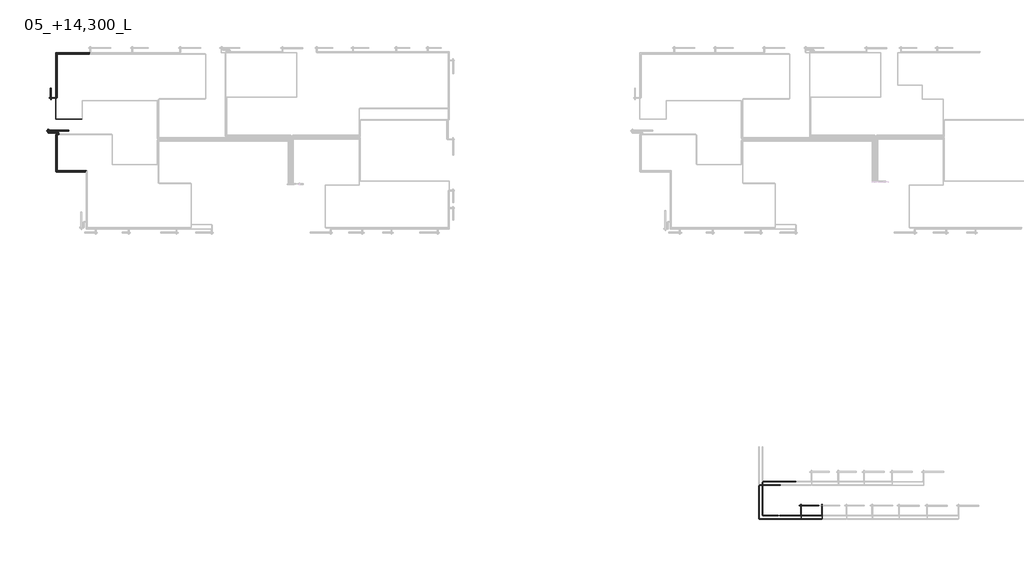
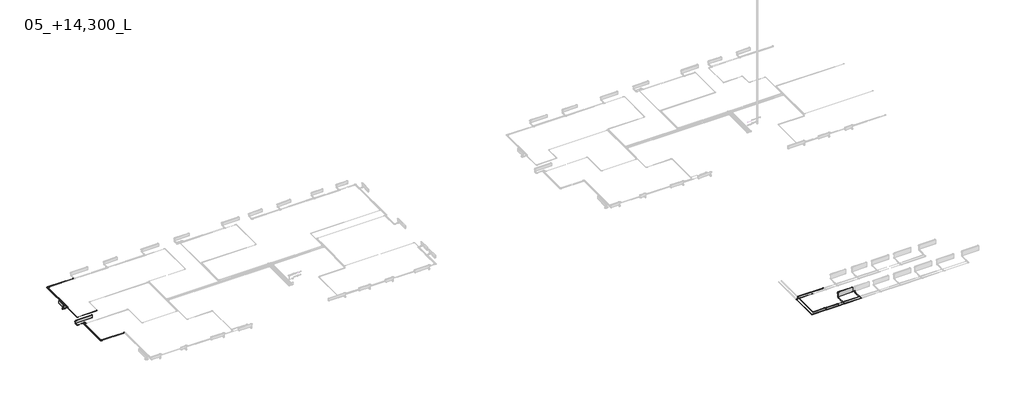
# One storey, part 1 of 15: 34 pipe segments, 29 pipe fittings, 3 proxies, 3 valves.
"""IFC4 building model written with IfcOpenShell, lengths in millimetres."""

from ifc_helpers import new_model, si_unit, point, frame, frame_2d, origin, place, context, project, spatial, circle_curve, trimmed, segment, composite_curve, outline, extrude, transform, mapped, element, save
from components import mechanical_equipment_91f7fb6e, mechanical_equipment_6df30eec, mechanical_equipment_88dabea2, pipe_fitting_ed936812, pipe_fitting_44bd76dc, pipe_fitting_342b0143, pipe_fitting_8f811e63, pipe_fitting_10138c0c, pipe_fitting_d927fdfb, pipe_fitting_8d19ce67, pipe_fitting_d4206441, valve_d3faaedd, valve_8453c3c0, valve_18af1cec

model = new_model("IFC4")

# Units and contexts
model_context = context("Model", 3, world=origin())
ifc_project = project(units=[si_unit("LENGTHUNIT", "METRE", prefix="MILLI")], contexts=[model_context])

# Site, building, storey
site = spatial("IfcSite", under=ifc_project)
building = spatial("IfcBuilding", under=site)
storey = spatial("IfcBuildingStorey", under=building, Name="05_+14,300_L", Elevation=14300.0)

# Proxies
placement = place(None, origin())
mechanical_equipment_shape = mechanical_equipment_91f7fb6e(model_context)
element("IfcBuildingElementProxy", 1, Name="EVRA CV Д : 21-300-900", ObjectType="EVRA CV Д : 21-300-900", at=placement, inside=storey, context=model_context, shape_type="MappedRepresentation", body=[
    mapped(mechanical_equipment_shape, transform((-2538.5368898, 124330.0000002, 14300.0), x_axis=(0.0, 1.0, 0.0), y_axis=(-1.0, 0.0, 0.0), z_axis=(0.0, 0.0, 1.0))),
])
mechanical_equipment_2_shape = mechanical_equipment_6df30eec(model_context)
element("IfcBuildingElementProxy", 2, Name="EVRA CV Д : 21-300-1800", ObjectType="EVRA CV Д : 21-300-1800", at=placement, inside=storey, context=model_context, shape_type="MappedRepresentation", body=[
    mapped(mechanical_equipment_2_shape, transform((-2097.451836, 121338.53689, 14300.0), x_axis=(1.0, 0.0, 0.0), y_axis=(0.0, 1.0, 0.0), z_axis=(0.0, 0.0, 1.0))),
])
mechanical_equipment_3_shape = mechanical_equipment_88dabea2(model_context)
element("IfcBuildingElementProxy", 3, Name="EVRA CV Д : 11-500-1600", ObjectType="EVRA CV Д : 11-500-1600", at=placement, inside=storey, context=model_context, shape_type="MappedRepresentation", body=[
    mapped(mechanical_equipment_3_shape, transform((62235.0, 89214.7933297, 14300.0), x_axis=(1.0, 0.0, 0.0), y_axis=(0.0, 1.0, 0.0), z_axis=(0.0, 0.0, 1.0))),
])

# Pipe fittings
pipe_fitting_shape = pipe_fitting_ed936812(model_context)
element("IfcPipeFitting", 4, ObjectType="ADSK_Пресс-фитинг ПЭ_Поворот с фиксатором : Поворот трубы", at=placement, inside=storey, context=model_context, shape_type="MappedRepresentation", body=[
    mapped(pipe_fitting_shape, transform((-2000.0, 124110.0000002, 14250.0), x_axis=(1.0, 0.0, 0.0), y_axis=(0.0, 1.0, 0.0), z_axis=(0.0, 0.0, 1.0))),
])
pipe_fitting_2_shape = pipe_fitting_44bd76dc(model_context)
element("IfcPipeFitting", 5, ObjectType="ADSK_Пресс-фитинг ПЭ_Тройник : Пластик черный", at=placement, inside=storey, context=model_context, shape_type="MappedRepresentation", body=[
    mapped(pipe_fitting_2_shape, transform((-1850.0, 121000.0000002, 14250.0), x_axis=(1.0, 0.0, 0.0), y_axis=(0.0, -1.0, 0.0), z_axis=(0.0, 0.0, -1.0))),
])
element("IfcPipeFitting", 6, ObjectType="ADSK_Пресс-фитинг ПЭ_Тройник : Пластик черный", at=placement, inside=storey, context=model_context, shape_type="MappedRepresentation", body=[
    mapped(pipe_fitting_2_shape, transform((-2100.0, 124160.0000002, 14250.0), x_axis=(0.0, 1.0, 0.0), y_axis=(1.0, 0.0, 0.0), z_axis=(0.0, 0.0, -1.0))),
])
pipe_fitting_3_shape = pipe_fitting_342b0143(model_context)
element("IfcPipeFitting", 7, ObjectType="ADSK_ЧугунРезьба_Угольник_ГОСТ8946-75 : Неоцинкованные", at=placement, inside=storey, context=model_context, shape_type="MappedRepresentation", body=[
    mapped(pipe_fitting_3_shape, transform((58115.0, 88049.2564399, 14250.0), x_axis=(0.0, -1.0, 0.0), y_axis=(1.0, 0.0, 0.0), z_axis=(0.0, 0.0, 1.0))),
])
element("IfcPipeFitting", 8, ObjectType="ADSK_ЧугунРезьба_Угольник_ГОСТ8946-75 : Неоцинкованные", at=placement, inside=storey, context=model_context, shape_type="MappedRepresentation", body=[
    mapped(pipe_fitting_3_shape, transform((58415.0, 88349.2564399, 14250.0), x_axis=(0.0, -1.0, 0.0), y_axis=(1.0, 0.0, 0.0), z_axis=(0.0, 0.0, 1.0))),
])
pipe_fitting_4_shape = pipe_fitting_8f811e63(model_context)
element("IfcPipeFitting", 9, ObjectType="ADSK_Пресс-фитинг ПЭ_Поворот с фиксатором : Поворот трубы", at=placement, inside=storey, context=model_context, shape_type="MappedRepresentation", body=[
    mapped(pipe_fitting_4_shape, transform((-2100.0, 128000.0, 14250.0), x_axis=(-1.0, 0.0, 0.0), y_axis=(0.0, -1.0, 0.0), z_axis=(0.0, 0.0, 1.0))),
])
element("IfcPipeFitting", 10, ObjectType="ADSK_Пресс-фитинг ПЭ_Поворот с фиксатором : Поворот трубы", at=placement, inside=storey, context=model_context, shape_type="MappedRepresentation", body=[
    mapped(pipe_fitting_4_shape, transform((-2000.0, 127900.0, 14250.0), x_axis=(-1.0, 0.0, 0.0), y_axis=(0.0, -1.0, 0.0), z_axis=(0.0, 0.0, 1.0))),
])
element("IfcPipeFitting", 11, ObjectType="ADSK_Пресс-фитинг ПЭ_Поворот с фиксатором : Поворот трубы", at=placement, inside=storey, context=model_context, shape_type="MappedRepresentation", body=[
    mapped(pipe_fitting_4_shape, transform((-2100.0, 122300.0, 14250.0), x_axis=(0.0, -1.0, 0.0), y_axis=(1.0, 0.0, 0.0), z_axis=(0.0, 0.0, 1.0))),
])
element("IfcPipeFitting", 12, ObjectType="ADSK_Пресс-фитинг ПЭ_Поворот с фиксатором : Поворот трубы", at=placement, inside=storey, context=model_context, shape_type="MappedRepresentation", body=[
    mapped(pipe_fitting_4_shape, transform((-2100.0, 121000.0000002, 14250.0), x_axis=(-1.0, 0.0, 0.0), y_axis=(0.0, -1.0, 0.0), z_axis=(0.0, 0.0, 1.0))),
])
element("IfcPipeFitting", 13, ObjectType="ADSK_Пресс-фитинг ПЭ_Поворот с фиксатором : Поворот трубы", at=placement, inside=storey, context=model_context, shape_type="MappedRepresentation", body=[
    mapped(pipe_fitting_4_shape, transform((-2717.451836, 121173.0000002, 14250.0), x_axis=(0.0, -1.0, 0.0), y_axis=(1.0, 0.0, 0.0), z_axis=(0.0, 0.0, 1.0))),
])
element("IfcPipeFitting", 14, ObjectType="ADSK_Пресс-фитинг ПЭ_Поворот с фиксатором : Поворот трубы", at=placement, inside=storey, context=model_context, shape_type="MappedRepresentation", body=[
    mapped(pipe_fitting_4_shape, transform((-1850.0, 121173.0000002, 14250.0), x_axis=(0.0, 1.0, 0.0), y_axis=(-1.0, 0.0, 0.0), z_axis=(0.0, 0.0, 1.0))),
])
element("IfcPipeFitting", 15, ObjectType="ADSK_Пресс-фитинг ПЭ_Поворот с фиксатором : Поворот трубы", at=placement, inside=storey, context=model_context, shape_type="MappedRepresentation", body=[
    mapped(pipe_fitting_4_shape, transform((-2767.451836, 121123.0000002, 14250.0), x_axis=(0.0, -1.0, 0.0), y_axis=(1.0, 0.0, 0.0), z_axis=(0.0, 0.0, 1.0))),
])
element("IfcPipeFitting", 16, ObjectType="ADSK_Пресс-фитинг ПЭ_Поворот с фиксатором : Поворот трубы", at=placement, inside=storey, context=model_context, shape_type="MappedRepresentation", body=[
    mapped(pipe_fitting_4_shape, transform((-2000.0, 121123.0000002, 14250.0), x_axis=(0.0, 1.0, 0.0), y_axis=(-1.0, 0.0, 0.0), z_axis=(0.0, 0.0, 1.0))),
])
element("IfcPipeFitting", 17, ObjectType="ADSK_Пресс-фитинг ПЭ_Поворот с фиксатором : Поворот трубы", at=placement, inside=storey, context=model_context, shape_type="MappedRepresentation", body=[
    mapped(pipe_fitting_4_shape, transform((-2100.0, 117800.0000002, 14250.0), x_axis=(0.0, -1.0, 0.0), y_axis=(1.0, 0.0, 0.0), z_axis=(0.0, 0.0, 1.0))),
])
element("IfcPipeFitting", 18, ObjectType="ADSK_Пресс-фитинг ПЭ_Поворот с фиксатором : Поворот трубы", at=placement, inside=storey, context=model_context, shape_type="MappedRepresentation", body=[
    mapped(pipe_fitting_4_shape, transform((-2000.0, 117900.0000002, 14250.0), x_axis=(0.0, -1.0, 0.0), y_axis=(1.0, 0.0, 0.0), z_axis=(0.0, 0.0, 1.0))),
])
pipe_fitting_5_shape = pipe_fitting_10138c0c(model_context)
element("IfcPipeFitting", 19, ObjectType="ADSK_ЧугунРезьба_МуфтаПереходная_ГОСТ8957-75 : Неоцинкованные", at=placement, inside=storey, context=model_context, shape_type="MappedRepresentation", body=[
    mapped(pipe_fitting_5_shape, transform((58415.0, 91213.2564399, 14250.0), x_axis=(0.0, -1.0, 0.0), y_axis=(1.0, 0.0, 0.0), z_axis=(0.0, 0.0, 1.0))),
])
element("IfcPipeFitting", 20, ObjectType="ADSK_ЧугунРезьба_МуфтаПереходная_ГОСТ8957-75 : Неоцинкованные", at=placement, inside=storey, context=model_context, shape_type="MappedRepresentation", body=[
    mapped(pipe_fitting_5_shape, transform((58115.0, 90913.2564399, 14250.0), x_axis=(0.0, -1.0, 0.0), y_axis=(1.0, 0.0, 0.0), z_axis=(0.0, 0.0, 1.0))),
])
pipe_fitting_6_shape = pipe_fitting_d927fdfb(model_context)
element("IfcPipeFitting", 21, ObjectType="Трубка Г-образная VTm.481.PC из стены : VTm.481.PC", at=placement, inside=storey, context=model_context, shape_type="MappedRepresentation", body=[
    mapped(pipe_fitting_6_shape, transform((-2767.451836, 121388.0000002, 14250.0), x_axis=(1.0, 0.0, 0.0), y_axis=(0.0, 1.0, 0.0), z_axis=(0.0, 0.0, 1.0))),
])
element("IfcPipeFitting", 22, ObjectType="Трубка Г-образная VTm.481.PC из стены : VTm.481.PC", at=placement, inside=storey, context=model_context, shape_type="MappedRepresentation", body=[
    mapped(pipe_fitting_6_shape, transform((-2588.0, 124110.0000002, 14250.0), x_axis=(0.0, 1.0, 0.0), y_axis=(-1.0, 0.0, 0.0), z_axis=(0.0, 0.0, 1.0))),
])
element("IfcPipeFitting", 23, ObjectType="Трубка Г-образная VTm.481.PC из стены : VTm.481.PC", at=placement, inside=storey, context=model_context, shape_type="MappedRepresentation", body=[
    mapped(pipe_fitting_6_shape, transform((-2717.451836, 121388.0000002, 14250.0), x_axis=(1.0, 0.0, 0.0), y_axis=(0.0, 1.0, 0.0), z_axis=(0.0, 0.0, 1.0))),
])
element("IfcPipeFitting", 24, ObjectType="Трубка Г-образная VTm.481.PC из стены : VTm.481.PC", at=placement, inside=storey, context=model_context, shape_type="MappedRepresentation", body=[
    mapped(pipe_fitting_6_shape, transform((-2588.0, 124160.0000002, 14250.0), x_axis=(0.0, 1.0, 0.0), y_axis=(-1.0, 0.0, 0.0), z_axis=(0.0, 0.0, 1.0))),
])
element("IfcPipeFitting", 25, ObjectType="Трубка Г-образная VTm.481.PC из стены : VTm.481.PC", at=placement, inside=storey, context=model_context, shape_type="MappedRepresentation", body=[
    mapped(pipe_fitting_6_shape, transform((63465.0, 89264.2564399, 14250.0), x_axis=(1.0, 0.0, 0.0), y_axis=(0.0, 1.0, 0.0), z_axis=(0.0, 0.0, 1.0))),
])
element("IfcPipeFitting", 26, ObjectType="Трубка Г-образная VTm.481.PC из стены : VTm.481.PC", at=placement, inside=storey, context=model_context, shape_type="MappedRepresentation", body=[
    mapped(pipe_fitting_6_shape, transform((63515.0, 89264.2564399, 14250.0), x_axis=(1.0, 0.0, 0.0), y_axis=(0.0, 1.0, 0.0), z_axis=(0.0, 0.0, 1.0))),
])
element("IfcPipeFitting", 27, ObjectType="Трубка Г-образная VTm.481.PC из стены : VTm.481.PC", at=placement, inside=storey, context=model_context, shape_type="MappedRepresentation", body=[
    mapped(pipe_fitting_6_shape, transform((61665.0, 89264.2564399, 14250.0), x_axis=(1.0, 0.0, 0.0), y_axis=(0.0, 1.0, 0.0), z_axis=(0.0, 0.0, 1.0))),
])
element("IfcPipeFitting", 28, ObjectType="Трубка Г-образная VTm.481.PC из стены : VTm.481.PC", at=placement, inside=storey, context=model_context, shape_type="MappedRepresentation", body=[
    mapped(pipe_fitting_6_shape, transform((61715.0, 89264.2564399, 14250.0), x_axis=(1.0, 0.0, 0.0), y_axis=(0.0, 1.0, 0.0), z_axis=(0.0, 0.0, 1.0))),
])
pipe_fitting_7_shape = pipe_fitting_8d19ce67(model_context)
element("IfcPipeFitting", 29, ObjectType="ADSK_Пресс-фитинг ПЭ_Муфта соединительная : Пластик черный", at=placement, inside=storey, context=model_context, shape_type="MappedRepresentation", body=[
    mapped(pipe_fitting_7_shape, transform((61112.5, 88349.2564399, 14250.0), x_axis=(-1.0, 0.0, 0.0), y_axis=(0.0, -1.0, 0.0), z_axis=(0.0, 0.0, 1.0))),
])
element("IfcPipeFitting", 30, ObjectType="ADSK_Пресс-фитинг ПЭ_Муфта соединительная : Пластик черный", at=placement, inside=storey, context=model_context, shape_type="MappedRepresentation", body=[
    mapped(pipe_fitting_7_shape, transform((61115.0, 88049.2564399, 14250.0), x_axis=(-1.0, 0.0, 0.0), y_axis=(0.0, -1.0, 0.0), z_axis=(0.0, 0.0, 1.0))),
])
pipe_fitting_8_shape = pipe_fitting_d4206441(model_context)
element("IfcPipeFitting", 31, ObjectType="ADSK_ЧугунРезьба_МуфтаПереходная_ГОСТ8957-75 : Неоцинкованные", at=placement, inside=storey, context=model_context, shape_type="MappedRepresentation", body=[
    mapped(pipe_fitting_8_shape, transform((59944.4660023, 88349.2564399, 14250.0), x_axis=(-1.0, 0.0, 0.0), y_axis=(0.0, -1.0, 0.0), z_axis=(0.0, 0.0, 1.0))),
])
element("IfcPipeFitting", 32, ObjectType="ADSK_ЧугунРезьба_МуфтаПереходная_ГОСТ8957-75 : Неоцинкованные", at=placement, inside=storey, context=model_context, shape_type="MappedRepresentation", body=[
    mapped(pipe_fitting_8_shape, transform((59712.4660023, 88349.2564399, 14250.0), x_axis=(1.0, 0.0, 0.0), y_axis=(0.0, 1.0, 0.0), z_axis=(0.0, 0.0, 1.0))),
])

# Pipe segments
element("IfcPipeSegment", 33, ObjectType="ADSK_Полиэтилен сшитый", at=placement, inside=storey, context=model_context, shape_type="SweptSolid", body=[
    extrude(outline(composite_curve([segment(trimmed(circle_curve(frame_2d((14250.0, -2100.0)), 8.0), [point((14250.0, -2108.0))], [point((14242.0, -2100.0))], False, "CARTESIAN"), True, "CONTINUOUS"), segment(trimmed(circle_curve(frame_2d((14250.0, -2100.0)), 8.0), [point((14242.0, -2100.0))], [point((14250.0, -2092.0))], False, "CARTESIAN"), True, "CONTINUOUS"), segment(trimmed(circle_curve(frame_2d((14250.0, -2100.0)), 8.0), [point((14250.0, -2092.0))], [point((14258.0, -2100.0))], False, "CARTESIAN"), True, "CONTINUOUS"), segment(trimmed(circle_curve(frame_2d((14250.0, -2100.0)), 8.0), [point((14258.0, -2100.0))], [point((14250.0, -2108.0))], False, "CARTESIAN"), True, "CONTINUOUS")], self_intersect=False)), frame((0.0, 122348.0, 0.0), z_axis=(0.0, 1.0, 0.0), x_axis=(0.0, 0.0, 1.0)), (0.0, 0.0, 1.0), 1792.0000002),
])
element("IfcPipeSegment", 34, ObjectType="ADSK_Полиэтилен сшитый", at=placement, inside=storey, context=model_context, shape_type="SweptSolid", body=[
    extrude(outline(composite_curve([segment(trimmed(circle_curve(frame_2d((127900.0, 14250.0)), 8.0), [point((127908.0, 14250.0))], [point((127900.0, 14242.0))], False, "CARTESIAN"), True, "CONTINUOUS"), segment(trimmed(circle_curve(frame_2d((127900.0, 14250.0)), 8.0), [point((127900.0, 14242.0))], [point((127892.0, 14250.0))], False, "CARTESIAN"), True, "CONTINUOUS"), segment(trimmed(circle_curve(frame_2d((127900.0, 14250.0)), 8.0), [point((127892.0, 14250.0))], [point((127900.0, 14258.0))], False, "CARTESIAN"), True, "CONTINUOUS"), segment(trimmed(circle_curve(frame_2d((127900.0, 14250.0)), 8.0), [point((127900.0, 14258.0))], [point((127908.0, 14250.0))], False, "CARTESIAN"), True, "CONTINUOUS")], self_intersect=False)), frame((-1952.0, 0.0, 0.0), z_axis=(1.0, 0.0, 0.0), x_axis=(0.0, 1.0, 0.0)), (0.0, 0.0, 1.0), 2762.0),
])
element("IfcPipeSegment", 35, ObjectType="ADSK_Полиэтилен сшитый", at=placement, inside=storey, context=model_context, shape_type="SweptSolid", body=[
    extrude(outline(composite_curve([segment(trimmed(circle_curve(frame_2d((14250.0, -2100.0)), 8.0), [point((14250.0, -2108.0))], [point((14242.0, -2100.0))], False, "CARTESIAN"), True, "CONTINUOUS"), segment(trimmed(circle_curve(frame_2d((14250.0, -2100.0)), 8.0), [point((14242.0, -2100.0))], [point((14250.0, -2092.0))], False, "CARTESIAN"), True, "CONTINUOUS"), segment(trimmed(circle_curve(frame_2d((14250.0, -2100.0)), 8.0), [point((14250.0, -2092.0))], [point((14258.0, -2100.0))], False, "CARTESIAN"), True, "CONTINUOUS"), segment(trimmed(circle_curve(frame_2d((14250.0, -2100.0)), 8.0), [point((14258.0, -2100.0))], [point((14250.0, -2108.0))], False, "CARTESIAN"), True, "CONTINUOUS")], self_intersect=False)), frame((0.0, 124180.0000002, 0.0), z_axis=(0.0, 1.0, 0.0), x_axis=(0.0, 0.0, 1.0)), (0.0, 0.0, 1.0), 3771.9999998),
])
element("IfcPipeSegment", 36, ObjectType="ADSK_Полиэтилен сшитый", at=placement, inside=storey, context=model_context, shape_type="SweptSolid", body=[
    extrude(outline(composite_curve([segment(trimmed(circle_curve(frame_2d((14250.0, -2000.0)), 8.0), [point((14250.0, -2008.0))], [point((14242.0, -2000.0))], False, "CARTESIAN"), True, "CONTINUOUS"), segment(trimmed(circle_curve(frame_2d((14250.0, -2000.0)), 8.0), [point((14242.0, -2000.0))], [point((14250.0, -1992.0))], False, "CARTESIAN"), True, "CONTINUOUS"), segment(trimmed(circle_curve(frame_2d((14250.0, -2000.0)), 8.0), [point((14250.0, -1992.0))], [point((14258.0, -2000.0))], False, "CARTESIAN"), True, "CONTINUOUS"), segment(trimmed(circle_curve(frame_2d((14250.0, -2000.0)), 8.0), [point((14258.0, -2000.0))], [point((14250.0, -2008.0))], False, "CARTESIAN"), True, "CONTINUOUS")], self_intersect=False)), frame((0.0, 124158.0000002, 0.0), z_axis=(0.0, 1.0, 0.0), x_axis=(0.0, 0.0, 1.0)), (0.0, 0.0, 1.0), 3693.9999998),
])
element("IfcPipeSegment", 37, ObjectType="ADSK_Полиэтилен сшитый", at=placement, inside=storey, context=model_context, shape_type="SweptSolid", body=[
    extrude(outline(composite_curve([segment(trimmed(circle_curve(frame_2d((122300.0, 14250.0)), 8.0), [point((122292.0, 14250.0))], [point((122300.0, 14258.0))], False, "CARTESIAN"), True, "CONTINUOUS"), segment(trimmed(circle_curve(frame_2d((122300.0, 14250.0)), 8.0), [point((122300.0, 14258.0))], [point((122308.0, 14250.0))], False, "CARTESIAN"), True, "CONTINUOUS"), segment(trimmed(circle_curve(frame_2d((122300.0, 14250.0)), 8.0), [point((122308.0, 14250.0))], [point((122300.0, 14242.0))], False, "CARTESIAN"), True, "CONTINUOUS"), segment(trimmed(circle_curve(frame_2d((122300.0, 14250.0)), 8.0), [point((122300.0, 14242.0))], [point((122292.0, 14250.0))], False, "CARTESIAN"), True, "CONTINUOUS")], self_intersect=False)), frame((-2052.0, 0.0, 0.0), z_axis=(1.0, 0.0, 0.0), x_axis=(0.0, 1.0, 0.0)), (0.0, 0.0, 1.0), 2163.9999998),
])
element("IfcPipeSegment", 38, ObjectType="ADSK_Полиэтилен сшитый", at=placement, inside=storey, context=model_context, shape_type="SweptSolid", body=[
    extrude(outline(composite_curve([segment(trimmed(circle_curve(frame_2d((14250.0, -2000.0)), 8.0), [point((14250.0, -2008.0))], [point((14242.0, -2000.0))], False, "CARTESIAN"), True, "CONTINUOUS"), segment(trimmed(circle_curve(frame_2d((14250.0, -2000.0)), 8.0), [point((14242.0, -2000.0))], [point((14250.0, -1992.0))], False, "CARTESIAN"), True, "CONTINUOUS"), segment(trimmed(circle_curve(frame_2d((14250.0, -2000.0)), 8.0), [point((14250.0, -1992.0))], [point((14258.0, -2000.0))], False, "CARTESIAN"), True, "CONTINUOUS"), segment(trimmed(circle_curve(frame_2d((14250.0, -2000.0)), 8.0), [point((14258.0, -2000.0))], [point((14250.0, -2008.0))], False, "CARTESIAN"), True, "CONTINUOUS")], self_intersect=False)), frame((0.0, 117948.0000002, 0.0), z_axis=(0.0, 1.0, 0.0), x_axis=(0.0, 0.0, 1.0)), (0.0, 0.0, 1.0), 3127.0),
])
element("IfcPipeSegment", 39, ObjectType="ADSK_Полиэтилен сшитый", at=placement, inside=storey, context=model_context, shape_type="SweptSolid", body=[
    extrude(outline(composite_curve([segment(trimmed(circle_curve(frame_2d((14250.0, -2100.0)), 8.0), [point((14250.0, -2108.0))], [point((14242.0, -2100.0))], False, "CARTESIAN"), True, "CONTINUOUS"), segment(trimmed(circle_curve(frame_2d((14250.0, -2100.0)), 8.0), [point((14242.0, -2100.0))], [point((14250.0, -2092.0))], False, "CARTESIAN"), True, "CONTINUOUS"), segment(trimmed(circle_curve(frame_2d((14250.0, -2100.0)), 8.0), [point((14250.0, -2092.0))], [point((14258.0, -2100.0))], False, "CARTESIAN"), True, "CONTINUOUS"), segment(trimmed(circle_curve(frame_2d((14250.0, -2100.0)), 8.0), [point((14258.0, -2100.0))], [point((14250.0, -2108.0))], False, "CARTESIAN"), True, "CONTINUOUS")], self_intersect=False)), frame((0.0, 117848.0000002, 0.0), z_axis=(0.0, 1.0, 0.0), x_axis=(0.0, 0.0, 1.0)), (0.0, 0.0, 1.0), 3104.0),
])
element("IfcPipeSegment", 40, ObjectType="ADSK_Полиэтилен сшитый", at=placement, inside=storey, context=model_context, shape_type="SweptSolid", body=[
    extrude(outline(composite_curve([segment(trimmed(circle_curve(frame_2d((117900.0000002, 14250.0)), 8.0), [point((117892.0000002, 14250.0))], [point((117900.0000002, 14258.0))], False, "CARTESIAN"), True, "CONTINUOUS"), segment(trimmed(circle_curve(frame_2d((117900.0000002, 14250.0)), 8.0), [point((117900.0000002, 14258.0))], [point((117908.0000002, 14250.0))], False, "CARTESIAN"), True, "CONTINUOUS"), segment(trimmed(circle_curve(frame_2d((117900.0000002, 14250.0)), 8.0), [point((117908.0000002, 14250.0))], [point((117900.0000002, 14242.0))], False, "CARTESIAN"), True, "CONTINUOUS"), segment(trimmed(circle_curve(frame_2d((117900.0000002, 14250.0)), 8.0), [point((117900.0000002, 14242.0))], [point((117892.0000002, 14250.0))], False, "CARTESIAN"), True, "CONTINUOUS")], self_intersect=False)), frame((-1952.0, 0.0, 0.0), z_axis=(1.0, 0.0, 0.0), x_axis=(0.0, 1.0, 0.0)), (0.0, 0.0, 1.0), 2503.9999998),
])
element("IfcPipeSegment", 41, ObjectType="ADSK_Полиэтилен сшитый", at=placement, inside=storey, context=model_context, shape_type="SweptSolid", body=[
    extrude(outline(composite_curve([segment(trimmed(circle_curve(frame_2d((117800.0000002, 14250.0)), 8.0), [point((117792.0000002, 14250.0))], [point((117800.0000002, 14258.0))], False, "CARTESIAN"), True, "CONTINUOUS"), segment(trimmed(circle_curve(frame_2d((117800.0000002, 14250.0)), 8.0), [point((117800.0000002, 14258.0))], [point((117808.0000002, 14250.0))], False, "CARTESIAN"), True, "CONTINUOUS"), segment(trimmed(circle_curve(frame_2d((117800.0000002, 14250.0)), 8.0), [point((117808.0000002, 14250.0))], [point((117800.0000002, 14242.0))], False, "CARTESIAN"), True, "CONTINUOUS"), segment(trimmed(circle_curve(frame_2d((117800.0000002, 14250.0)), 8.0), [point((117800.0000002, 14242.0))], [point((117792.0000002, 14250.0))], False, "CARTESIAN"), True, "CONTINUOUS")], self_intersect=False)), frame((-2052.0, 0.0, 0.0), z_axis=(1.0, 0.0, 0.0), x_axis=(0.0, 1.0, 0.0)), (0.0, 0.0, 1.0), 2503.9999998),
])
element("IfcPipeSegment", 42, ObjectType="ADSK_Полиэтилен сшитый", at=placement, inside=storey, context=model_context, shape_type="SweptSolid", body=[
    extrude(outline(composite_curve([segment(trimmed(circle_curve(frame_2d((121000.0000002, 14250.0)), 8.0), [point((121008.0000002, 14250.0))], [point((121000.0000002, 14242.0))], False, "CARTESIAN"), True, "CONTINUOUS"), segment(trimmed(circle_curve(frame_2d((121000.0000002, 14250.0)), 8.0), [point((121000.0000002, 14242.0))], [point((120992.0000002, 14250.0))], False, "CARTESIAN"), True, "CONTINUOUS"), segment(trimmed(circle_curve(frame_2d((121000.0000002, 14250.0)), 8.0), [point((120992.0000002, 14250.0))], [point((121000.0000002, 14258.0))], False, "CARTESIAN"), True, "CONTINUOUS"), segment(trimmed(circle_curve(frame_2d((121000.0000002, 14250.0)), 8.0), [point((121000.0000002, 14258.0))], [point((121008.0000002, 14250.0))], False, "CARTESIAN"), True, "CONTINUOUS")], self_intersect=False)), frame((-2052.0, 0.0, 0.0), z_axis=(1.0, 0.0, 0.0), x_axis=(0.0, 1.0, 0.0)), (0.0, 0.0, 1.0), 183.0),
])
element("IfcPipeSegment", 43, ObjectType="ADSK_Полиэтилен сшитый", at=placement, inside=storey, context=model_context, shape_type="SweptSolid", body=[
    extrude(outline(composite_curve([segment(trimmed(circle_curve(frame_2d((14250.0, -2717.451836)), 8.0), [point((14250.0, -2725.451836))], [point((14242.0, -2717.451836))], False, "CARTESIAN"), True, "CONTINUOUS"), segment(trimmed(circle_curve(frame_2d((14250.0, -2717.451836)), 8.0), [point((14242.0, -2717.451836))], [point((14250.0, -2709.451836))], False, "CARTESIAN"), True, "CONTINUOUS"), segment(trimmed(circle_curve(frame_2d((14250.0, -2717.451836)), 8.0), [point((14250.0, -2709.451836))], [point((14258.0, -2717.451836))], False, "CARTESIAN"), True, "CONTINUOUS"), segment(trimmed(circle_curve(frame_2d((14250.0, -2717.451836)), 8.0), [point((14258.0, -2717.451836))], [point((14250.0, -2725.451836))], False, "CARTESIAN"), True, "CONTINUOUS")], self_intersect=False)), frame((0.0, 121221.0000002, 0.0), z_axis=(0.0, 1.0, 0.0), x_axis=(0.0, 0.0, 1.0)), (0.0, 0.0, 1.0), 52.0),
])
element("IfcPipeSegment", 44, ObjectType="ADSK_Полиэтилен сшитый", at=placement, inside=storey, context=model_context, shape_type="SweptSolid", body=[
    extrude(outline(composite_curve([segment(trimmed(circle_curve(frame_2d((121173.0000002, 14250.0)), 8.0), [point((121165.0000002, 14250.0))], [point((121173.0000002, 14258.0))], False, "CARTESIAN"), True, "CONTINUOUS"), segment(trimmed(circle_curve(frame_2d((121173.0000002, 14250.0)), 8.0), [point((121173.0000002, 14258.0))], [point((121181.0000002, 14250.0))], False, "CARTESIAN"), True, "CONTINUOUS"), segment(trimmed(circle_curve(frame_2d((121173.0000002, 14250.0)), 8.0), [point((121181.0000002, 14250.0))], [point((121173.0000002, 14242.0))], False, "CARTESIAN"), True, "CONTINUOUS"), segment(trimmed(circle_curve(frame_2d((121173.0000002, 14250.0)), 8.0), [point((121173.0000002, 14242.0))], [point((121165.0000002, 14250.0))], False, "CARTESIAN"), True, "CONTINUOUS")], self_intersect=False)), frame((-2669.451836, 0.0, 0.0), z_axis=(1.0, 0.0, 0.0), x_axis=(0.0, 1.0, 0.0)), (0.0, 0.0, 1.0), 771.451836),
])
element("IfcPipeSegment", 45, ObjectType="ADSK_Полиэтилен сшитый", at=placement, inside=storey, context=model_context, shape_type="SweptSolid", body=[
    extrude(outline(composite_curve([segment(trimmed(circle_curve(frame_2d((14250.0, -1850.0)), 8.0), [point((14250.0, -1842.0))], [point((14258.0, -1850.0))], False, "CARTESIAN"), True, "CONTINUOUS"), segment(trimmed(circle_curve(frame_2d((14250.0, -1850.0)), 8.0), [point((14258.0, -1850.0))], [point((14250.0, -1858.0))], False, "CARTESIAN"), True, "CONTINUOUS"), segment(trimmed(circle_curve(frame_2d((14250.0, -1850.0)), 8.0), [point((14250.0, -1858.0))], [point((14242.0, -1850.0))], False, "CARTESIAN"), True, "CONTINUOUS"), segment(trimmed(circle_curve(frame_2d((14250.0, -1850.0)), 8.0), [point((14242.0, -1850.0))], [point((14250.0, -1842.0))], False, "CARTESIAN"), True, "CONTINUOUS")], self_intersect=False)), frame((0.0, 121024.0000002, 0.0), z_axis=(0.0, 1.0, 0.0), x_axis=(0.0, 0.0, 1.0)), (0.0, 0.0, 1.0), 101.0),
])
element("IfcPipeSegment", 46, ObjectType="ADSK_Полиэтилен сшитый", at=placement, inside=storey, context=model_context, shape_type="SweptSolid", body=[
    extrude(outline(composite_curve([segment(trimmed(circle_curve(frame_2d((14250.0, -2767.451836)), 8.0), [point((14250.0, -2775.451836))], [point((14242.0, -2767.451836))], False, "CARTESIAN"), True, "CONTINUOUS"), segment(trimmed(circle_curve(frame_2d((14250.0, -2767.451836)), 8.0), [point((14242.0, -2767.451836))], [point((14250.0, -2759.451836))], False, "CARTESIAN"), True, "CONTINUOUS"), segment(trimmed(circle_curve(frame_2d((14250.0, -2767.451836)), 8.0), [point((14250.0, -2759.451836))], [point((14258.0, -2767.451836))], False, "CARTESIAN"), True, "CONTINUOUS"), segment(trimmed(circle_curve(frame_2d((14250.0, -2767.451836)), 8.0), [point((14258.0, -2767.451836))], [point((14250.0, -2775.451836))], False, "CARTESIAN"), True, "CONTINUOUS")], self_intersect=False)), frame((0.0, 121171.0000002, 0.0), z_axis=(0.0, 1.0, 0.0), x_axis=(0.0, 0.0, 1.0)), (0.0, 0.0, 1.0), 102.0),
])
element("IfcPipeSegment", 47, ObjectType="ADSK_Полиэтилен сшитый", at=placement, inside=storey, context=model_context, shape_type="SweptSolid", body=[
    extrude(outline(composite_curve([segment(trimmed(circle_curve(frame_2d((121123.0000002, 14250.0)), 8.0), [point((121115.0000002, 14250.0))], [point((121123.0000002, 14258.0))], False, "CARTESIAN"), True, "CONTINUOUS"), segment(trimmed(circle_curve(frame_2d((121123.0000002, 14250.0)), 8.0), [point((121123.0000002, 14258.0))], [point((121131.0000002, 14250.0))], False, "CARTESIAN"), True, "CONTINUOUS"), segment(trimmed(circle_curve(frame_2d((121123.0000002, 14250.0)), 8.0), [point((121131.0000002, 14250.0))], [point((121123.0000002, 14242.0))], False, "CARTESIAN"), True, "CONTINUOUS"), segment(trimmed(circle_curve(frame_2d((121123.0000002, 14250.0)), 8.0), [point((121123.0000002, 14242.0))], [point((121115.0000002, 14250.0))], False, "CARTESIAN"), True, "CONTINUOUS")], self_intersect=False)), frame((-2719.451836, 0.0, 0.0), z_axis=(1.0, 0.0, 0.0), x_axis=(0.0, 1.0, 0.0)), (0.0, 0.0, 1.0), 671.451836),
])
element("IfcPipeSegment", 48, ObjectType="ADSK_Полиэтилен сшитый", at=placement, inside=storey, context=model_context, shape_type="SweptSolid", body=[
    extrude(outline(composite_curve([segment(trimmed(circle_curve(frame_2d((124160.0000002, 14250.0)), 8.0), [point((124168.0000002, 14250.0))], [point((124160.0000002, 14242.0))], False, "CARTESIAN"), True, "CONTINUOUS"), segment(trimmed(circle_curve(frame_2d((124160.0000002, 14250.0)), 8.0), [point((124160.0000002, 14242.0))], [point((124152.0000002, 14250.0))], False, "CARTESIAN"), True, "CONTINUOUS"), segment(trimmed(circle_curve(frame_2d((124160.0000002, 14250.0)), 8.0), [point((124152.0000002, 14250.0))], [point((124160.0000002, 14258.0))], False, "CARTESIAN"), True, "CONTINUOUS"), segment(trimmed(circle_curve(frame_2d((124160.0000002, 14250.0)), 8.0), [point((124160.0000002, 14258.0))], [point((124168.0000002, 14250.0))], False, "CARTESIAN"), True, "CONTINUOUS")], self_intersect=False)), frame((-2473.0, 0.0, 0.0), z_axis=(1.0, 0.0, 0.0), x_axis=(0.0, 1.0, 0.0)), (0.0, 0.0, 1.0), 349.0),
])
element("IfcPipeSegment", 49, ObjectType="ADSK_Полиэтилен сшитый", at=placement, inside=storey, context=model_context, shape_type="SweptSolid", body=[
    extrude(outline(composite_curve([segment(trimmed(circle_curve(frame_2d((124110.0000002, 14250.0)), 8.0), [point((124118.0000002, 14250.0))], [point((124110.0000002, 14242.0))], False, "CARTESIAN"), True, "CONTINUOUS"), segment(trimmed(circle_curve(frame_2d((124110.0000002, 14250.0)), 8.0), [point((124110.0000002, 14242.0))], [point((124102.0000002, 14250.0))], False, "CARTESIAN"), True, "CONTINUOUS"), segment(trimmed(circle_curve(frame_2d((124110.0000002, 14250.0)), 8.0), [point((124102.0000002, 14250.0))], [point((124110.0000002, 14258.0))], False, "CARTESIAN"), True, "CONTINUOUS"), segment(trimmed(circle_curve(frame_2d((124110.0000002, 14250.0)), 8.0), [point((124110.0000002, 14258.0))], [point((124118.0000002, 14250.0))], False, "CARTESIAN"), True, "CONTINUOUS")], self_intersect=False)), frame((-2473.0, 0.0, 0.0), z_axis=(1.0, 0.0, 0.0), x_axis=(0.0, 1.0, 0.0)), (0.0, 0.0, 1.0), 425.0),
])
element("IfcPipeSegment", 50, ObjectType="ADSK_Полиэтилен сшитый", at=placement, inside=storey, context=model_context, shape_type="SweptSolid", body=[
    extrude(outline(composite_curve([segment(trimmed(circle_curve(frame_2d((128000.0, 14250.0)), 8.0), [point((127992.0, 14250.0))], [point((128000.0, 14258.0))], False, "CARTESIAN"), True, "CONTINUOUS"), segment(trimmed(circle_curve(frame_2d((128000.0, 14250.0)), 8.0), [point((128000.0, 14258.0))], [point((128008.0, 14250.0))], False, "CARTESIAN"), True, "CONTINUOUS"), segment(trimmed(circle_curve(frame_2d((128000.0, 14250.0)), 8.0), [point((128008.0, 14250.0))], [point((128000.0, 14242.0))], False, "CARTESIAN"), True, "CONTINUOUS"), segment(trimmed(circle_curve(frame_2d((128000.0, 14250.0)), 8.0), [point((128000.0, 14242.0))], [point((127992.0, 14250.0))], False, "CARTESIAN"), True, "CONTINUOUS")], self_intersect=False)), frame((-2052.0, 0.0, 0.0), z_axis=(1.0, 0.0, 0.0), x_axis=(0.0, 1.0, 0.0)), (0.0, 0.0, 1.0), 2912.0),
])
element("IfcPipeSegment", 51, ObjectType="ADSK_Полиэтилен сшитый", at=placement, inside=storey, context=model_context, shape_type="SweptSolid", body=[
    extrude(outline(composite_curve([segment(trimmed(circle_curve(frame_2d((88049.2564399, 14250.0)), 16.0), [point((88065.2564399, 14250.0))], [point((88049.2564399, 14234.0))], False, "CARTESIAN"), True, "CONTINUOUS"), segment(trimmed(circle_curve(frame_2d((88049.2564399, 14250.0)), 16.0), [point((88049.2564399, 14234.0))], [point((88033.2564399, 14250.0))], False, "CARTESIAN"), True, "CONTINUOUS"), segment(trimmed(circle_curve(frame_2d((88049.2564399, 14250.0)), 16.0), [point((88033.2564399, 14250.0))], [point((88049.2564399, 14266.0))], False, "CARTESIAN"), True, "CONTINUOUS"), segment(trimmed(circle_curve(frame_2d((88049.2564399, 14250.0)), 16.0), [point((88049.2564399, 14266.0))], [point((88065.2564399, 14250.0))], False, "CARTESIAN"), True, "CONTINUOUS")], self_intersect=False)), frame((61126.0, 0.0, 0.0), z_axis=(1.0, 0.0, 0.0), x_axis=(0.0, 1.0, 0.0)), (0.0, 0.0, 1.0), 567.0),
])
element("IfcPipeSegment", 52, ObjectType="ADSK_Полиэтилен сшитый", at=placement, inside=storey, context=model_context, shape_type="SweptSolid", body=[
    extrude(outline(composite_curve([segment(trimmed(circle_curve(frame_2d((88349.2564399, 14250.0)), 16.0), [point((88365.2564399, 14250.0))], [point((88349.2564399, 14234.0))], False, "CARTESIAN"), True, "CONTINUOUS"), segment(trimmed(circle_curve(frame_2d((88349.2564399, 14250.0)), 16.0), [point((88349.2564399, 14234.0))], [point((88333.2564399, 14250.0))], False, "CARTESIAN"), True, "CONTINUOUS"), segment(trimmed(circle_curve(frame_2d((88349.2564399, 14250.0)), 16.0), [point((88333.2564399, 14250.0))], [point((88349.2564399, 14266.0))], False, "CARTESIAN"), True, "CONTINUOUS"), segment(trimmed(circle_curve(frame_2d((88349.2564399, 14250.0)), 16.0), [point((88349.2564399, 14266.0))], [point((88365.2564399, 14250.0))], False, "CARTESIAN"), True, "CONTINUOUS")], self_intersect=False)), frame((61121.0, 0.0, 0.0), z_axis=(1.0, 0.0, 0.0), x_axis=(0.0, 1.0, 0.0)), (0.0, 0.0, 1.0), 522.0),
])
element("IfcPipeSegment", 53, ObjectType="ADSK_Сталь водогазопроводная_Неоцинкованная_ГОСТ 3262-75", at=placement, inside=storey, context=model_context, shape_type="SweptSolid", body=[
    extrude(outline(composite_curve([segment(trimmed(circle_curve(frame_2d((91249.2564399, 14250.0)), 13.4), [point((91235.8564399, 14250.0))], [point((91249.2564399, 14263.4))], False, "CARTESIAN"), True, "CONTINUOUS"), segment(trimmed(circle_curve(frame_2d((91249.2564399, 14250.0)), 13.4), [point((91249.2564399, 14263.4))], [point((91262.6564399, 14250.0))], False, "CARTESIAN"), True, "CONTINUOUS"), segment(trimmed(circle_curve(frame_2d((91249.2564399, 14250.0)), 13.4), [point((91262.6564399, 14250.0))], [point((91249.2564399, 14236.6))], False, "CARTESIAN"), True, "CONTINUOUS"), segment(trimmed(circle_curve(frame_2d((91249.2564399, 14250.0)), 13.4), [point((91249.2564399, 14236.6))], [point((91235.8564399, 14250.0))], False, "CARTESIAN"), True, "CONTINUOUS")], self_intersect=False)), frame((58456.0, 0.0, 0.0), z_axis=(1.0, 0.0, 0.0), x_axis=(0.0, 1.0, 0.0)), (0.0, 0.0, 1.0), 2848.0),
])
element("IfcPipeSegment", 54, ObjectType="ADSK_Сталь водогазопроводная_Неоцинкованная_ГОСТ 3262-75", at=placement, inside=storey, context=model_context, shape_type="SweptSolid", body=[
    extrude(outline(composite_curve([segment(trimmed(circle_curve(frame_2d((88349.2564399, 14250.0)), 16.75), [point((88366.0064399, 14250.0))], [point((88349.2564399, 14233.25))], False, "CARTESIAN"), True, "CONTINUOUS"), segment(trimmed(circle_curve(frame_2d((88349.2564399, 14250.0)), 16.75), [point((88349.2564399, 14233.25))], [point((88332.5064399, 14250.0))], False, "CARTESIAN"), True, "CONTINUOUS"), segment(trimmed(circle_curve(frame_2d((88349.2564399, 14250.0)), 16.75), [point((88332.5064399, 14250.0))], [point((88349.2564399, 14266.75))], False, "CARTESIAN"), True, "CONTINUOUS"), segment(trimmed(circle_curve(frame_2d((88349.2564399, 14250.0)), 16.75), [point((88349.2564399, 14266.75))], [point((88366.0064399, 14250.0))], False, "CARTESIAN"), True, "CONTINUOUS")], self_intersect=False)), frame((58455.5, 0.0, 0.0), z_axis=(1.0, 0.0, 0.0), x_axis=(0.0, 1.0, 0.0)), (0.0, 0.0, 1.0), 1256.9660023),
])
element("IfcPipeSegment", 55, ObjectType="ADSK_Сталь водогазопроводная_Неоцинкованная_ГОСТ 3262-75", at=placement, inside=storey, context=model_context, shape_type="SweptSolid", body=[
    extrude(outline(composite_curve([segment(trimmed(circle_curve(frame_2d((14250.0, 58415.0)), 16.75), [point((14250.0, 58431.75))], [point((14266.75, 58415.0))], False, "CARTESIAN"), True, "CONTINUOUS"), segment(trimmed(circle_curve(frame_2d((14250.0, 58415.0)), 16.75), [point((14266.75, 58415.0))], [point((14250.0, 58398.25))], False, "CARTESIAN"), True, "CONTINUOUS"), segment(trimmed(circle_curve(frame_2d((14250.0, 58415.0)), 16.75), [point((14250.0, 58398.25))], [point((14233.25, 58415.0))], False, "CARTESIAN"), True, "CONTINUOUS"), segment(trimmed(circle_curve(frame_2d((14250.0, 58415.0)), 16.75), [point((14233.25, 58415.0))], [point((14250.0, 58431.75))], False, "CARTESIAN"), True, "CONTINUOUS")], self_intersect=False)), frame((0.0, 88389.7564399, 0.0), z_axis=(0.0, 1.0, 0.0), x_axis=(0.0, 0.0, 1.0)), (0.0, 0.0, 1.0), 2773.5),
])
element("IfcPipeSegment", 56, ObjectType="ADSK_Сталь водогазопроводная_Неоцинкованная_ГОСТ 3262-75", at=placement, inside=storey, context=model_context, shape_type="SweptSolid", body=[
    extrude(outline(composite_curve([segment(trimmed(circle_curve(frame_2d((14250.0, 58115.0)), 16.75), [point((14250.0, 58131.75))], [point((14266.75, 58115.0))], False, "CARTESIAN"), True, "CONTINUOUS"), segment(trimmed(circle_curve(frame_2d((14250.0, 58115.0)), 16.75), [point((14266.75, 58115.0))], [point((14250.0, 58098.25))], False, "CARTESIAN"), True, "CONTINUOUS"), segment(trimmed(circle_curve(frame_2d((14250.0, 58115.0)), 16.75), [point((14250.0, 58098.25))], [point((14233.25, 58115.0))], False, "CARTESIAN"), True, "CONTINUOUS"), segment(trimmed(circle_curve(frame_2d((14250.0, 58115.0)), 16.75), [point((14233.25, 58115.0))], [point((14250.0, 58131.75))], False, "CARTESIAN"), True, "CONTINUOUS")], self_intersect=False)), frame((0.0, 88089.7564399, 0.0), z_axis=(0.0, 1.0, 0.0), x_axis=(0.0, 0.0, 1.0)), (0.0, 0.0, 1.0), 2773.5),
])
element("IfcPipeSegment", 57, ObjectType="ADSK_Сталь водогазопроводная_Неоцинкованная_ГОСТ 3262-75", at=placement, inside=storey, context=model_context, shape_type="SweptSolid", body=[
    extrude(outline(composite_curve([segment(trimmed(circle_curve(frame_2d((90949.2564399, 14250.0)), 13.4), [point((90935.8564399, 14250.0))], [point((90949.2564399, 14263.4))], False, "CARTESIAN"), True, "CONTINUOUS"), segment(trimmed(circle_curve(frame_2d((90949.2564399, 14250.0)), 13.4), [point((90949.2564399, 14263.4))], [point((90962.6564399, 14250.0))], False, "CARTESIAN"), True, "CONTINUOUS"), segment(trimmed(circle_curve(frame_2d((90949.2564399, 14250.0)), 13.4), [point((90962.6564399, 14250.0))], [point((90949.2564399, 14236.6))], False, "CARTESIAN"), True, "CONTINUOUS"), segment(trimmed(circle_curve(frame_2d((90949.2564399, 14250.0)), 13.4), [point((90949.2564399, 14236.6))], [point((90935.8564399, 14250.0))], False, "CARTESIAN"), True, "CONTINUOUS")], self_intersect=False)), frame((58156.0, 0.0, 0.0), z_axis=(1.0, 0.0, 0.0), x_axis=(0.0, 1.0, 0.0)), (0.0, 0.0, 1.0), 1758.679858),
])
element("IfcPipeSegment", 58, ObjectType="ADSK_Сталь водогазопроводная_Неоцинкованная_ГОСТ 3262-75", at=placement, inside=storey, context=model_context, shape_type="SweptSolid", body=[
    extrude(outline(composite_curve([segment(trimmed(circle_curve(frame_2d((88049.2564399, 14250.0)), 16.75), [point((88032.5064399, 14250.0))], [point((88049.2564399, 14266.75))], False, "CARTESIAN"), True, "CONTINUOUS"), segment(trimmed(circle_curve(frame_2d((88049.2564399, 14250.0)), 16.75), [point((88049.2564399, 14266.75))], [point((88066.0064399, 14250.0))], False, "CARTESIAN"), True, "CONTINUOUS"), segment(trimmed(circle_curve(frame_2d((88049.2564399, 14250.0)), 16.75), [point((88066.0064399, 14250.0))], [point((88049.2564399, 14233.25))], False, "CARTESIAN"), True, "CONTINUOUS"), segment(trimmed(circle_curve(frame_2d((88049.2564399, 14250.0)), 16.75), [point((88049.2564399, 14233.25))], [point((88032.5064399, 14250.0))], False, "CARTESIAN"), True, "CONTINUOUS")], self_intersect=False)), frame((59810.380769, 0.0, 0.0), z_axis=(1.0, 0.0, 0.0), x_axis=(0.0, 1.0, 0.0)), (0.0, 0.0, 1.0), 1296.119231),
])
element("IfcPipeSegment", 59, ObjectType="ADSK_Полиэтилен сшитый", at=placement, inside=storey, context=model_context, shape_type="SweptSolid", body=[
    extrude(outline(composite_curve([segment(trimmed(circle_curve(frame_2d((14250.0, 63515.0)), 8.0), [point((14250.0, 63523.0))], [point((14258.0, 63515.0))], False, "CARTESIAN"), True, "CONTINUOUS"), segment(trimmed(circle_curve(frame_2d((14250.0, 63515.0)), 8.0), [point((14258.0, 63515.0))], [point((14250.0, 63507.0))], False, "CARTESIAN"), True, "CONTINUOUS"), segment(trimmed(circle_curve(frame_2d((14250.0, 63515.0)), 8.0), [point((14250.0, 63507.0))], [point((14242.0, 63515.0))], False, "CARTESIAN"), True, "CONTINUOUS"), segment(trimmed(circle_curve(frame_2d((14250.0, 63515.0)), 8.0), [point((14242.0, 63515.0))], [point((14250.0, 63523.0))], False, "CARTESIAN"), True, "CONTINUOUS")], self_intersect=False)), frame((0.0, 88081.2564399, 0.0), z_axis=(0.0, 1.0, 0.0), x_axis=(0.0, 0.0, 1.0)), (0.0, 0.0, 1.0), 1068.0),
])
element("IfcPipeSegment", 60, ObjectType="ADSK_Полиэтилен сшитый", at=placement, inside=storey, context=model_context, shape_type="SweptSolid", body=[
    extrude(outline(composite_curve([segment(trimmed(circle_curve(frame_2d((14250.0, 63465.0)), 8.0), [point((14250.0, 63473.0))], [point((14258.0, 63465.0))], False, "CARTESIAN"), True, "CONTINUOUS"), segment(trimmed(circle_curve(frame_2d((14250.0, 63465.0)), 8.0), [point((14258.0, 63465.0))], [point((14250.0, 63457.0))], False, "CARTESIAN"), True, "CONTINUOUS"), segment(trimmed(circle_curve(frame_2d((14250.0, 63465.0)), 8.0), [point((14250.0, 63457.0))], [point((14242.0, 63465.0))], False, "CARTESIAN"), True, "CONTINUOUS"), segment(trimmed(circle_curve(frame_2d((14250.0, 63465.0)), 8.0), [point((14242.0, 63465.0))], [point((14250.0, 63473.0))], False, "CARTESIAN"), True, "CONTINUOUS")], self_intersect=False)), frame((0.0, 88381.2564399, 0.0), z_axis=(0.0, 1.0, 0.0), x_axis=(0.0, 0.0, 1.0)), (0.0, 0.0, 1.0), 768.0),
])
element("IfcPipeSegment", 61, ObjectType="ADSK_Полиэтилен сшитый", at=placement, inside=storey, context=model_context, shape_type="SweptSolid", body=[
    extrude(outline(composite_curve([segment(trimmed(circle_curve(frame_2d((14250.0, 61715.0)), 8.0), [point((14250.0, 61723.0))], [point((14258.0, 61715.0))], False, "CARTESIAN"), True, "CONTINUOUS"), segment(trimmed(circle_curve(frame_2d((14250.0, 61715.0)), 8.0), [point((14258.0, 61715.0))], [point((14250.0, 61707.0))], False, "CARTESIAN"), True, "CONTINUOUS"), segment(trimmed(circle_curve(frame_2d((14250.0, 61715.0)), 8.0), [point((14250.0, 61707.0))], [point((14242.0, 61715.0))], False, "CARTESIAN"), True, "CONTINUOUS"), segment(trimmed(circle_curve(frame_2d((14250.0, 61715.0)), 8.0), [point((14242.0, 61715.0))], [point((14250.0, 61723.0))], False, "CARTESIAN"), True, "CONTINUOUS")], self_intersect=False)), frame((0.0, 88081.2564399, 0.0), z_axis=(0.0, 1.0, 0.0), x_axis=(0.0, 0.0, 1.0)), (0.0, 0.0, 1.0), 1068.0),
])
element("IfcPipeSegment", 62, ObjectType="ADSK_Полиэтилен сшитый", at=placement, inside=storey, context=model_context, shape_type="SweptSolid", body=[
    extrude(outline(composite_curve([segment(trimmed(circle_curve(frame_2d((14250.0, 61665.0)), 8.0), [point((14250.0, 61673.0))], [point((14258.0, 61665.0))], False, "CARTESIAN"), True, "CONTINUOUS"), segment(trimmed(circle_curve(frame_2d((14250.0, 61665.0)), 8.0), [point((14258.0, 61665.0))], [point((14250.0, 61657.0))], False, "CARTESIAN"), True, "CONTINUOUS"), segment(trimmed(circle_curve(frame_2d((14250.0, 61665.0)), 8.0), [point((14250.0, 61657.0))], [point((14242.0, 61665.0))], False, "CARTESIAN"), True, "CONTINUOUS"), segment(trimmed(circle_curve(frame_2d((14250.0, 61665.0)), 8.0), [point((14242.0, 61665.0))], [point((14250.0, 61673.0))], False, "CARTESIAN"), True, "CONTINUOUS")], self_intersect=False)), frame((0.0, 88381.2564399, 0.0), z_axis=(0.0, 1.0, 0.0), x_axis=(0.0, 0.0, 1.0)), (0.0, 0.0, 1.0), 768.0),
])
element("IfcPipeSegment", 63, ObjectType="ADSK_Полиэтилен сшитый", at=placement, inside=storey, context=model_context, shape_type="SweptSolid", body=[
    extrude(outline(composite_curve([segment(trimmed(circle_curve(frame_2d((88049.2564399, 14250.0)), 16.0), [point((88065.2564399, 14250.0))], [point((88049.2564399, 14234.0))], False, "CARTESIAN"), True, "CONTINUOUS"), segment(trimmed(circle_curve(frame_2d((88049.2564399, 14250.0)), 16.0), [point((88049.2564399, 14234.0))], [point((88033.2564399, 14250.0))], False, "CARTESIAN"), True, "CONTINUOUS"), segment(trimmed(circle_curve(frame_2d((88049.2564399, 14250.0)), 16.0), [point((88033.2564399, 14250.0))], [point((88049.2564399, 14266.0))], False, "CARTESIAN"), True, "CONTINUOUS"), segment(trimmed(circle_curve(frame_2d((88049.2564399, 14250.0)), 16.0), [point((88049.2564399, 14266.0))], [point((88065.2564399, 14250.0))], False, "CARTESIAN"), True, "CONTINUOUS")], self_intersect=False)), frame((61737.0, 0.0, 0.0), z_axis=(1.0, 0.0, 0.0), x_axis=(0.0, 1.0, 0.0)), (0.0, 0.0, 1.0), 1756.0),
])
element("IfcPipeSegment", 64, ObjectType="ADSK_Полиэтилен сшитый", at=placement, inside=storey, context=model_context, shape_type="SweptSolid", body=[
    extrude(outline(composite_curve([segment(trimmed(circle_curve(frame_2d((88349.2564399, 14250.0)), 16.0), [point((88365.2564399, 14250.0))], [point((88349.2564399, 14234.0))], False, "CARTESIAN"), True, "CONTINUOUS"), segment(trimmed(circle_curve(frame_2d((88349.2564399, 14250.0)), 16.0), [point((88349.2564399, 14234.0))], [point((88333.2564399, 14250.0))], False, "CARTESIAN"), True, "CONTINUOUS"), segment(trimmed(circle_curve(frame_2d((88349.2564399, 14250.0)), 16.0), [point((88333.2564399, 14250.0))], [point((88349.2564399, 14266.0))], False, "CARTESIAN"), True, "CONTINUOUS"), segment(trimmed(circle_curve(frame_2d((88349.2564399, 14250.0)), 16.0), [point((88349.2564399, 14266.0))], [point((88365.2564399, 14250.0))], False, "CARTESIAN"), True, "CONTINUOUS")], self_intersect=False)), frame((61687.0, 0.0, 0.0), z_axis=(1.0, 0.0, 0.0), x_axis=(0.0, 1.0, 0.0)), (0.0, 0.0, 1.0), 1756.0),
])
element("IfcPipeSegment", 65, ObjectType="ADSK_Сталь водогазопроводная_Неоцинкованная_ГОСТ 3262-75", at=placement, inside=storey, context=model_context, shape_type="SweptSolid", body=[
    extrude(outline(composite_curve([segment(trimmed(circle_curve(frame_2d((88349.2564399, 14250.0)), 16.75), [point((88366.0064399, 14250.0))], [point((88349.2564399, 14233.25))], False, "CARTESIAN"), True, "CONTINUOUS"), segment(trimmed(circle_curve(frame_2d((88349.2564399, 14250.0)), 16.75), [point((88349.2564399, 14233.25))], [point((88332.5064399, 14250.0))], False, "CARTESIAN"), True, "CONTINUOUS"), segment(trimmed(circle_curve(frame_2d((88349.2564399, 14250.0)), 16.75), [point((88332.5064399, 14250.0))], [point((88349.2564399, 14266.75))], False, "CARTESIAN"), True, "CONTINUOUS"), segment(trimmed(circle_curve(frame_2d((88349.2564399, 14250.0)), 16.75), [point((88349.2564399, 14266.75))], [point((88366.0064399, 14250.0))], False, "CARTESIAN"), True, "CONTINUOUS")], self_intersect=False)), frame((59944.4660023, 0.0, 0.0), z_axis=(1.0, 0.0, 0.0), x_axis=(0.0, 1.0, 0.0)), (0.0, 0.0, 1.0), 1159.5339977),
])
element("IfcPipeSegment", 66, ObjectType="ADSK_Сталь водогазопроводная_Неоцинкованная_ГОСТ 3262-75", at=placement, inside=storey, context=model_context, shape_type="SweptSolid", body=[
    extrude(outline(composite_curve([segment(trimmed(circle_curve(frame_2d((88049.2564399, 14250.0)), 16.75), [point((88032.5064399, 14250.0))], [point((88049.2564399, 14266.75))], False, "CARTESIAN"), True, "CONTINUOUS"), segment(trimmed(circle_curve(frame_2d((88049.2564399, 14250.0)), 16.75), [point((88049.2564399, 14266.75))], [point((88066.0064399, 14250.0))], False, "CARTESIAN"), True, "CONTINUOUS"), segment(trimmed(circle_curve(frame_2d((88049.2564399, 14250.0)), 16.75), [point((88066.0064399, 14250.0))], [point((88049.2564399, 14233.25))], False, "CARTESIAN"), True, "CONTINUOUS"), segment(trimmed(circle_curve(frame_2d((88049.2564399, 14250.0)), 16.75), [point((88049.2564399, 14233.25))], [point((88032.5064399, 14250.0))], False, "CARTESIAN"), True, "CONTINUOUS")], self_intersect=False)), frame((58155.5, 0.0, 0.0), z_axis=(1.0, 0.0, 0.0), x_axis=(0.0, 1.0, 0.0)), (0.0, 0.0, 1.0), 1585.880769),
])

# Valves
valve_shape = valve_d3faaedd(model_context)
element("IfcValve", 67, ObjectType="EVRA_Термоголовка EVRA MТB140 : EVRA MТB140", at=placement, inside=storey, context=model_context, shape_type="MappedRepresentation", body=[
    mapped(valve_shape, transform((-1897.451836, 121313.0000002, 14650.0), x_axis=(1.0, 0.0, 0.0), y_axis=(0.0, 1.0, 0.0), z_axis=(0.0, 0.0, 1.0))),
])
valve_2_shape = valve_8453c3c0(model_context)
element("IfcValve", 68, ObjectType="EVRA_Термоголовка EVRA MТB140 : EVRA MТB140", at=placement, inside=storey, context=model_context, shape_type="MappedRepresentation", body=[
    mapped(valve_2_shape, transform((62435.0, 89189.2564399, 14850.0), x_axis=(1.0, 0.0, 0.0), y_axis=(0.0, 1.0, 0.0), z_axis=(0.0, 0.0, 1.0))),
])
valve_3_shape = valve_18af1cec(model_context)
element("IfcValve", 69, ObjectType="EVRA_Термоголовка EVRA MТB140 : EVRA MТB140", at=placement, inside=storey, context=model_context, shape_type="MappedRepresentation", body=[
    mapped(valve_3_shape, transform((-2513.0, 124530.0000002, 14650.0), x_axis=(0.0, 1.0, 0.0), y_axis=(-1.0, 0.0, 0.0), z_axis=(0.0, 0.0, 1.0))),
])

save(model, "model.ifc")
